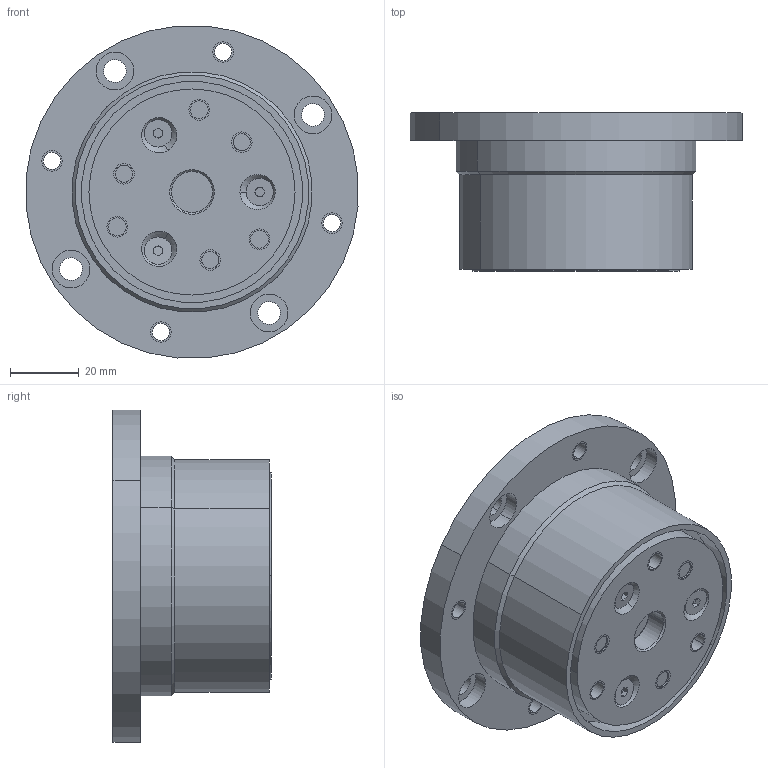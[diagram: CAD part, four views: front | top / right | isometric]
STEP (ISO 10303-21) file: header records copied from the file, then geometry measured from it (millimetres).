
FILE_DESCRIPTION((''),'2;1');
FILE_NAME('B6-060-060','2018-02-27T',('CSW'),(''),'CREO PARAMETRIC BY PTC INC, 2016260','CREO PARAMETRIC BY PTC INC, 2016260','');
FILE_SCHEMA(('AUTOMOTIVE_DESIGN { 1 0 10303 214 1 1 1 1 }'));
Length unit declared in the file: millimetre
Products named in the file (1): B6-060-060
Bounding box: 96.63 x 46 x 96.63 mm (x, y, z)
Volume: 190563.5 mm3; surface area: 34650.5 mm2
Topology: 1 solids, 47 shells, 492 faces, 1094 edges, 682 vertices
Faces by surface type: cylinder 208, plane 194, cone 74, torus 16
Entity records: 13942 total; most frequent: CARTESIAN_POINT 2568, DIRECTION 2558, ORIENTED_EDGE 2048, EDGE_CURVE 1078, AXIS2_PLACEMENT_3D 1015, VERTEX_POINT 682, EDGE_LOOP 586, VECTOR 528
